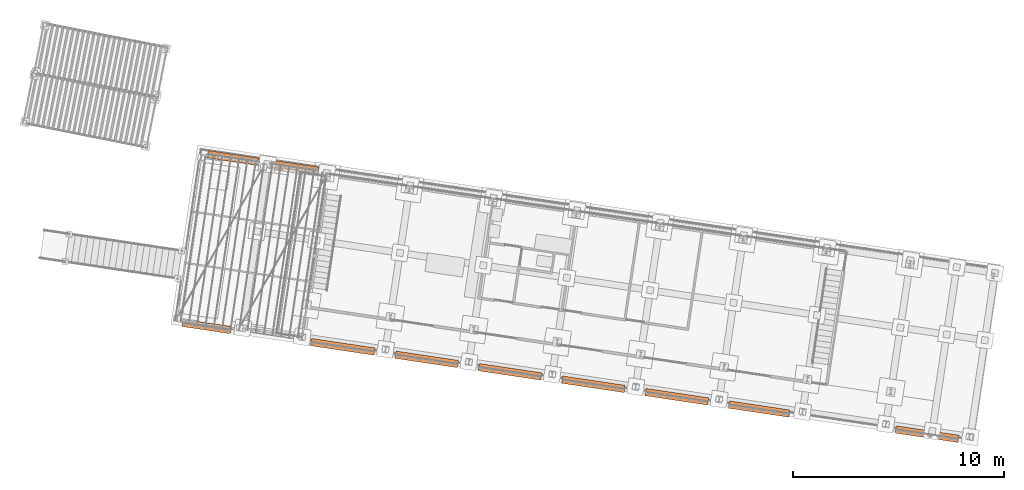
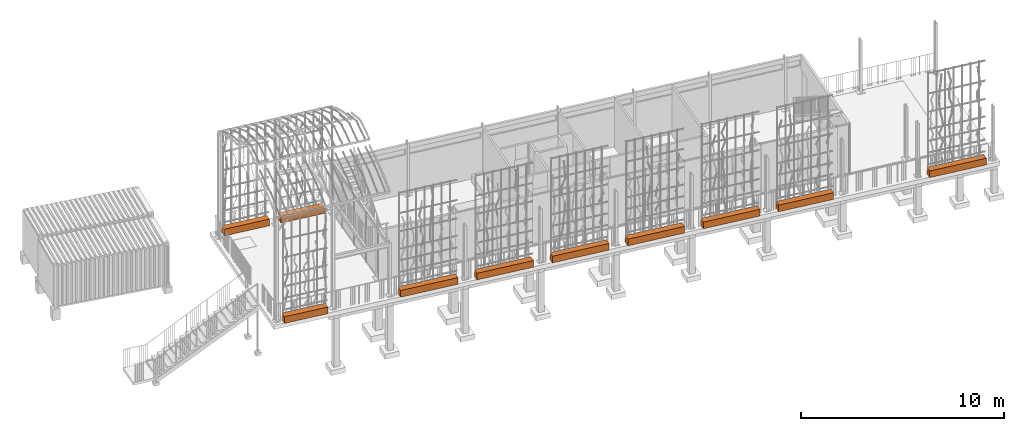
# One storey, part 143 of 143: 10 proxies, 1 element without a shape of its own.
"""IFC4 building model written with IfcOpenShell, lengths in metres."""

from ifc_helpers import new_model, si_unit, direction, frame, origin_with_axes, place, context, subcontext, project, spatial, polyline, outline, extrude, material, element, aggregate, save


model = new_model("IFC4")

# Units and contexts
model_context = context("Model", 3, precision=1e-05, world=origin_with_axes(), true_north=direction((0.0, 1.0)))
body_context = subcontext(model_context, "Body", "Model", "MODEL_VIEW")
ifc_project = project(units=[si_unit("VOLUMEUNIT", "CUBIC_METRE"), si_unit("LENGTHUNIT", "METRE"), si_unit("AREAUNIT", "SQUARE_METRE")], contexts=[model_context])

# Site, building, storey
site_placement = place(None, origin_with_axes())
site = spatial("IfcSite", under=ifc_project, at=site_placement, Name="Lares · Rua das Mercês · artigo 4771")
building_placement = place(site_placement, frame((15.0, 9.7, 15.8), z_axis=(0.0, 0.0, 1.0), x_axis=(0.989015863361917, -0.147809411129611, 0.0)))
building = spatial("IfcBuilding", under=site, at=building_placement, Name="Casa Sobreposta")
storey_placement = place(building_placement, origin_with_axes())
storey = spatial("IfcBuildingStorey", under=building, at=storey_placement, Name="00 · Habitação e estacionamento", Elevation=15.8)

# Assembly, proxies
assembly_placement = place(storey_placement, origin_with_axes())
assembly = element("IfcElementAssembly", 1, at=assembly_placement, inside=storey, Name="Fachada sul e pátio · estrutura e trepadeiras", ObjectType="LIVING_SHADE_TRELLIS", PredefinedType="USERDEFINED")
ifc_material = material(Name="Betão armado / Stahlbeton", Category="concrete")
proxy_1_placement = place(assembly_placement, frame((0.0, 0.0, -0.04), z_axis=(0.0, 0.0, 1.0), x_axis=(1.0, 0.0, 0.0)))
proxy_1 = element("IfcBuildingElementProxy", 2, at=proxy_1_placement, material=ifc_material, Name="Trepadeiras · floreira", ObjectType="Trepadeiras · floreira", PredefinedType="USERDEFINED", context=body_context, shape_type="SweptSolid", body=[
    extrude(outline(polyline([(-3.4, -1.785), (-3.4, -1.435), (-5.7, -1.435), (-5.7, -1.785), (-3.4, -1.785)])), origin_with_axes(), (0.0, 0.0, 1.0), 0.4),
])
proxy_2_placement = place(assembly_placement, frame((0.0, 0.0, -0.04), z_axis=(0.0, 0.0, 1.0), x_axis=(1.0, 0.0, 0.0)))
proxy_2 = element("IfcBuildingElementProxy", 3, at=proxy_2_placement, material=ifc_material, Name="Trepadeiras · floreira", ObjectType="Trepadeiras · floreira", PredefinedType="USERDEFINED", context=body_context, shape_type="SweptSolid", body=[
    extrude(outline(polyline([(3.5, -1.785), (3.5, -1.435), (0.45, -1.435), (0.45, -1.785), (3.5, -1.785)])), origin_with_axes(), (0.0, 0.0, 1.0), 0.4),
])
proxy_3_placement = place(assembly_placement, frame((0.0, 0.0, -0.04), z_axis=(0.0, 0.0, 1.0), x_axis=(1.0, 0.0, 0.0)))
proxy_3 = element("IfcBuildingElementProxy", 4, at=proxy_3_placement, material=ifc_material, Name="Trepadeiras · floreira", ObjectType="Trepadeiras · floreira", PredefinedType="USERDEFINED", context=body_context, shape_type="SweptSolid", body=[
    extrude(outline(polyline([(7.5, -1.785), (7.5, -1.435), (4.5, -1.435), (4.5, -1.785), (7.5, -1.785)])), origin_with_axes(), (0.0, 0.0, 1.0), 0.4),
])
proxy_4_placement = place(assembly_placement, frame((0.0, 0.0, -0.04), z_axis=(0.0, 0.0, 1.0), x_axis=(1.0, 0.0, 0.0)))
proxy_4 = element("IfcBuildingElementProxy", 5, at=proxy_4_placement, material=ifc_material, Name="Trepadeiras · floreira", ObjectType="Trepadeiras · floreira", PredefinedType="USERDEFINED", context=body_context, shape_type="SweptSolid", body=[
    extrude(outline(polyline([(11.5, -1.785), (11.5, -1.435), (8.5, -1.435), (8.5, -1.785), (11.5, -1.785)])), origin_with_axes(), (0.0, 0.0, 1.0), 0.4),
])
proxy_5_placement = place(assembly_placement, frame((0.0, 0.0, -0.04), z_axis=(0.0, 0.0, 1.0), x_axis=(1.0, 0.0, 0.0)))
proxy_5 = element("IfcBuildingElementProxy", 6, at=proxy_5_placement, material=ifc_material, Name="Trepadeiras · floreira", ObjectType="Trepadeiras · floreira", PredefinedType="USERDEFINED", context=body_context, shape_type="SweptSolid", body=[
    extrude(outline(polyline([(15.5, -1.785), (15.5, -1.435), (12.5, -1.435), (12.5, -1.785), (15.5, -1.785)])), origin_with_axes(), (0.0, 0.0, 1.0), 0.4),
])
proxy_6_placement = place(assembly_placement, frame((0.0, 0.0, -0.04), z_axis=(0.0, 0.0, 1.0), x_axis=(1.0, 0.0, 0.0)))
proxy_6 = element("IfcBuildingElementProxy", 7, at=proxy_6_placement, material=ifc_material, Name="Trepadeiras · floreira", ObjectType="Trepadeiras · floreira", PredefinedType="USERDEFINED", context=body_context, shape_type="SweptSolid", body=[
    extrude(outline(polyline([(19.5, -1.785), (19.5, -1.435), (16.5, -1.435), (16.5, -1.785), (19.5, -1.785)])), origin_with_axes(), (0.0, 0.0, 1.0), 0.4),
])
proxy_7_placement = place(assembly_placement, frame((0.0, 0.0, -0.04), z_axis=(0.0, 0.0, 1.0), x_axis=(1.0, 0.0, 0.0)))
proxy_7 = element("IfcBuildingElementProxy", 8, at=proxy_7_placement, material=ifc_material, Name="Trepadeiras · floreira", ObjectType="Trepadeiras · floreira", PredefinedType="USERDEFINED", context=body_context, shape_type="SweptSolid", body=[
    extrude(outline(polyline([(23.4, -1.785), (23.4, -1.435), (20.5, -1.435), (20.5, -1.785), (23.4, -1.785)])), origin_with_axes(), (0.0, 0.0, 1.0), 0.4),
])
proxy_8_placement = place(assembly_placement, frame((0.0, 0.0, -0.04), z_axis=(0.0, 0.0, 1.0), x_axis=(1.0, 0.0, 0.0)))
proxy_8 = element("IfcBuildingElementProxy", 9, at=proxy_8_placement, material=ifc_material, Name="Trepadeiras · floreira", ObjectType="Trepadeiras · floreira", PredefinedType="USERDEFINED", context=body_context, shape_type="SweptSolid", body=[
    extrude(outline(polyline([(31.5, -1.785), (31.5, -1.435), (28.5, -1.435), (28.5, -1.785), (31.5, -1.785)])), origin_with_axes(), (0.0, 0.0, 1.0), 0.4),
])
proxy_9_placement = place(assembly_placement, frame((0.0, 0.0, -0.04), z_axis=(0.0, 0.0, 1.0), x_axis=(1.0, 0.0, 0.0)))
proxy_9 = element("IfcBuildingElementProxy", 10, at=proxy_9_placement, material=ifc_material, Name="Trepadeiras · floreira", ObjectType="Trepadeiras · floreira", PredefinedType="USERDEFINED", context=body_context, shape_type="SweptSolid", body=[
    extrude(outline(polyline([(-3.3, 6.305), (-3.3, 6.655), (-5.7, 6.655), (-5.7, 6.305), (-3.3, 6.305)])), origin_with_axes(), (0.0, 0.0, 1.0), 0.4),
])
proxy_10_placement = place(assembly_placement, frame((0.0, 0.0, -0.04), z_axis=(0.0, 0.0, 1.0), x_axis=(1.0, 0.0, 0.0)))
proxy_10 = element("IfcBuildingElementProxy", 11, at=proxy_10_placement, material=ifc_material, Name="Trepadeiras · floreira", ObjectType="Trepadeiras · floreira", PredefinedType="USERDEFINED", context=body_context, shape_type="SweptSolid", body=[
    extrude(outline(polyline([(-0.4, 6.305), (-0.4, 6.655), (-2.7, 6.655), (-2.7, 6.305), (-0.4, 6.305)])), origin_with_axes(), (0.0, 0.0, 1.0), 0.4),
])
aggregate(assembly, [proxy_1, proxy_2, proxy_3, proxy_4, proxy_5, proxy_6, proxy_7, proxy_8, proxy_9, proxy_10])

save(model, "model.ifc")
